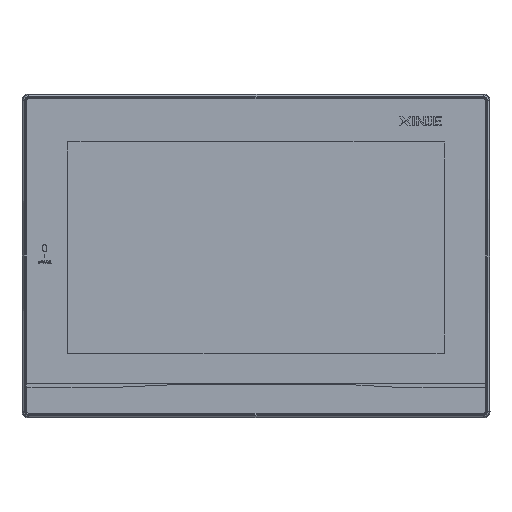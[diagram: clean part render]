
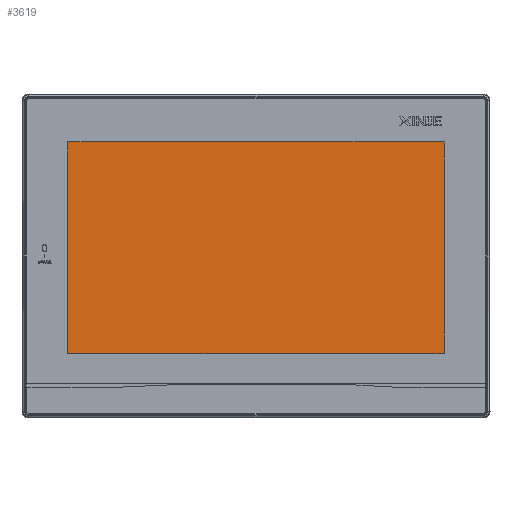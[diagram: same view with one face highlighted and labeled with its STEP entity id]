
A CAD part, front view. The second image highlights one B-rep face of the part: STEP entity #3619.
In plain terms, the highlighted planar face has unit normal (0, -1, 0).
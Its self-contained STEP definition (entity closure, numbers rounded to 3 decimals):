
#3619=ADVANCED_FACE('',(#4136),#13180,.T.);
#4136=FACE_OUTER_BOUND('',#4655,.T.);
#4655=EDGE_LOOP('',(#5250));
#5250=ORIENTED_EDGE('',*,*,#7851,.T.);
#7851=EDGE_CURVE('',#11446,#11446,#9815,.T.);
#9815=B_SPLINE_CURVE_WITH_KNOTS('',1,(#14356,#14357,#14358,#14359,#14360),
 .UNSPECIFIED.,.T.,.F.,(2,1,1,1,2),(0.,631.901,987.593,1619.494,1975.186),
 .UNSPECIFIED.);
#11446=VERTEX_POINT('',#14355);
#13180=PLANE('',#13464);
#13464=AXIS2_PLACEMENT_3D('',#14354,#13732,$);
#13732=DIRECTION('',(0.,-1.,0.));
#14354=CARTESIAN_POINT('',(-72.069,2652.46,-68.306));
#14355=CARTESIAN_POINT('',(-72.069,2652.46,-68.306));
#14356=CARTESIAN_POINT('',(-72.069,2652.46,-68.306));
#14357=CARTESIAN_POINT('',(150.851,2652.46,-68.306));
#14358=CARTESIAN_POINT('',(150.851,2652.46,57.174));
#14359=CARTESIAN_POINT('',(-72.069,2652.46,57.174));
#14360=CARTESIAN_POINT('',(-72.069,2652.46,-68.306));
